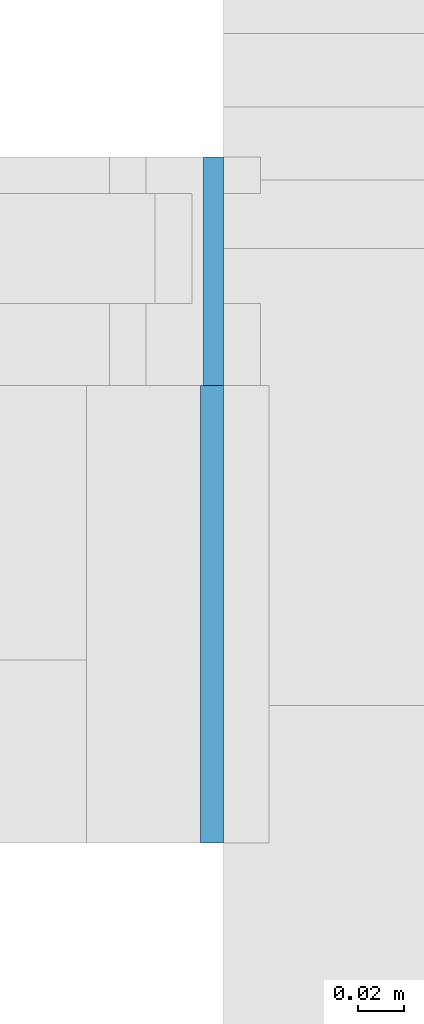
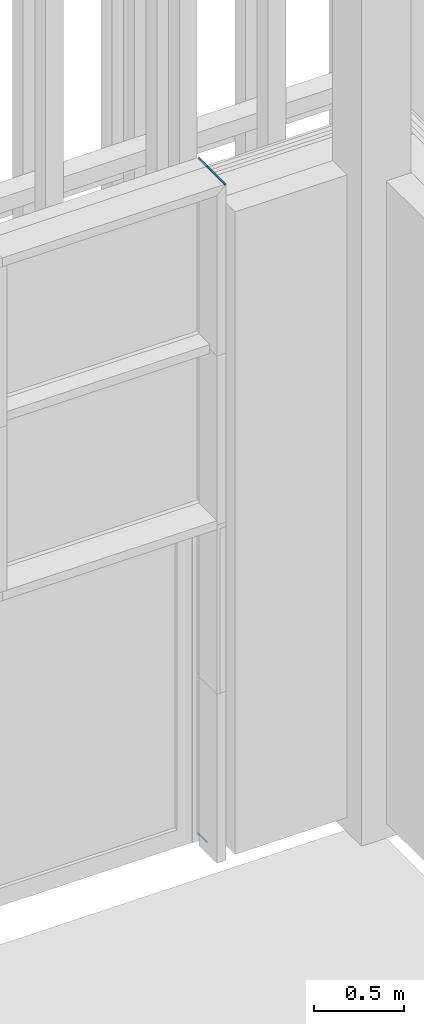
# One storey, part 101 of 260: 3 members, 2 elements without a shape of their own.
"""IFC2X3 building model written with IfcOpenShell, lengths in millimetres."""

from ifc_helpers import new_model, entity, si_unit, converted_unit, derived_unit, money_unit, direction, frame, origin_with_axes, place, context, subcontext, project, spatial, faceted_brep, material, type_object, element, aggregate, save


model = new_model("IFC2X3")

# Units and contexts
model_context = context("Model", 3, precision=0.01, world=origin_with_axes(), true_north=direction((0.0, 1.0)))
body_context = subcontext(model_context, "Body", "Model", "MODEL_VIEW")
ifc_project = project(units=[si_unit("LENGTHUNIT", "METRE", prefix="MILLI"), si_unit("AREAUNIT", "SQUARE_METRE"), si_unit("VOLUMEUNIT", "CUBIC_METRE"), converted_unit("PLANEANGLEUNIT", "DEGREE", entity("IfcPlaneAngleMeasure", 0.0174532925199), si_unit("PLANEANGLEUNIT", "RADIAN"), dimensions=[0, 0, 0, 0, 0, 0, 0]), money_unit("EUR"), converted_unit("TIMEUNIT", "Year", entity("IfcTimeMeasure", 31556926.0), si_unit("TIMEUNIT", "SECOND"), dimensions=[0, 0, 1, 0, 0, 0, 0]), si_unit("MASSUNIT", "GRAM", prefix="KILO"), si_unit("THERMODYNAMICTEMPERATUREUNIT", "DEGREE_CELSIUS"), si_unit("LUMINOUSINTENSITYUNIT", "LUMEN"), si_unit("ENERGYUNIT", "JOULE", prefix="MEGA"), derived_unit("THERMALCONDUCTANCEUNIT", [(si_unit("POWERUNIT", "WATT"), 1), (si_unit("LENGTHUNIT", "METRE"), -1), (si_unit("THERMODYNAMICTEMPERATUREUNIT", "KELVIN"), -1)]), derived_unit("SPECIFICHEATCAPACITYUNIT", [(si_unit("ENERGYUNIT", "JOULE"), 1), (si_unit("MASSUNIT", "GRAM", prefix="KILO"), -1), (si_unit("THERMODYNAMICTEMPERATUREUNIT", "KELVIN"), -1)]), derived_unit("MASSDENSITYUNIT", [(si_unit("MASSUNIT", "GRAM", prefix="KILO"), 1), (si_unit("VOLUMEUNIT", "CUBIC_METRE"), -1)])], contexts=[model_context])

# Site, building, storey
site_placement = place(None, origin_with_axes())
site = spatial("IfcSite", under=ifc_project, at=site_placement, Name="Kolde pst 67a", CompositionType="ELEMENT")
building_placement = place(site_placement, origin_with_axes())
building = spatial("IfcBuilding", under=site, at=building_placement, Name="Riigigümnaasium", CompositionType="ELEMENT")
storey_placement = place(building_placement, origin_with_axes())
storey = spatial("IfcBuildingStorey", under=building, at=storey_placement, Name="1. korrus", CompositionType="ELEMENT", Elevation=0.0)

# Curtain wall, members
curtain_wall_type = type_object("IfcCurtainWallType", Name="Curtain Wall Type", PredefinedType="NOTDEFINED")
curtain_wall_1_placement = place(storey_placement, frame((10366.0828546, 84639.9999608, 0.0), z_axis=(0.0, 0.0, 1.0), x_axis=(1.0, 0.0, 0.0)))
curtain_wall_1 = element("IfcCurtainWall", 1, at=curtain_wall_1_placement, inside=storey, type_object=curtain_wall_type, Name="KLAASFASSAAD")
ifc_material_1 = material(Name="_METALL - alumiinium")
member_type_1 = type_object("IfcMemberType", Name="Boundary Frame 50 x 100", PredefinedType="MEMBER")
member_1_placement = place(curtain_wall_1_placement, frame((25025.0, 0.0, 0.0), z_axis=(1.0, 0.0, 0.0), x_axis=(0.0, 0.0, 1.0)))
member_1 = element("IfcMember", 2, at=member_1_placement, type_object=member_type_1, material=ifc_material_1, Name="RF RAAM SERV-094", ObjectType="MEMBER", context=body_context, shape_type="Brep", body=[
    faceted_brep([(8.91746160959, -40.0, 0.0), (0.0, -40.0, 8.91746160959), (0.0, -40.0, 0.0), (8.91746160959, 60.0, 0.0), (0.0, 60.0, 8.91746160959), (0.0, 60.0, 0.0)], [[[0, 1, 2]], [[0, 3, 4, 1]], [[2, 1, 4, 5]], [[3, 0, 2, 5]], [[5, 4, 3]]]),
])
member_2_placement = place(curtain_wall_1_placement, frame((25025.0, 0.0, 4600.0), z_axis=(1.0, 0.0, 0.0), x_axis=(0.0, 0.0, 1.0)))
member_2 = element("IfcMember", 3, at=member_2_placement, type_object=member_type_1, material=ifc_material_1, Name="RF RAAM SERV-099", ObjectType="MEMBER", context=body_context, shape_type="Brep", body=[
    faceted_brep([(-8.91746160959, -40.0, 0.0), (0.0, -40.0, 0.0), (0.0, -40.0, 8.91746160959), (-8.91746160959, 60.0, 0.0), (0.0, 60.0, 0.0), (0.0, 60.0, 8.91746160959)], [[[0, 1, 2]], [[3, 4, 1, 0]], [[1, 4, 5, 2]], [[0, 2, 5, 3]], [[4, 3, 5]]]),
])
aggregate(curtain_wall_1, [member_1, member_2])

# Curtain wall, member
curtain_wall_2_placement = place(storey_placement, frame((7516.12873899, 84579.9999608, 0.0), z_axis=(0.0, 0.0, 1.0), x_axis=(1.0, 0.0, 0.0)))
curtain_wall_2 = element("IfcCurtainWall", 4, at=curtain_wall_2_placement, inside=storey, type_object=curtain_wall_type, Name="Klaasfassaadi puitkarkass")
ifc_material_2 = material(Name="_KANDETARIND - liimpuit vastavalt EK osale")
member_type_2 = type_object("IfcMemberType", Name="Boundary Frame 60 x 200", PredefinedType="MEMBER")
member_3_placement = place(curtain_wall_2_placement, frame((27873.6284674, 0.0, 4600.0), z_axis=(1.0, 0.0, 0.0), x_axis=(0.0, 0.0, 1.0)))
member_3 = element("IfcMember", 5, at=member_3_placement, type_object=member_type_2, material=ifc_material_2, Name="RF RAAM SERV-435", ObjectType="MEMBER", context=body_context, shape_type="Brep", body=[
    faceted_brep([(-10.2431097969, 0.0, 0.0), (0.0, 0.0, 0.0), (0.0, 0.0, 10.2431097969), (-10.2431097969, 200.0, 0.0), (0.0, 200.0, 0.0), (0.0, 200.0, 10.2431097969)], [[[0, 1, 2]], [[3, 4, 1, 0]], [[1, 4, 5, 2]], [[0, 2, 5, 3]], [[4, 3, 5]]]),
])
aggregate(curtain_wall_2, [member_3])

save(model, "model.ifc")
